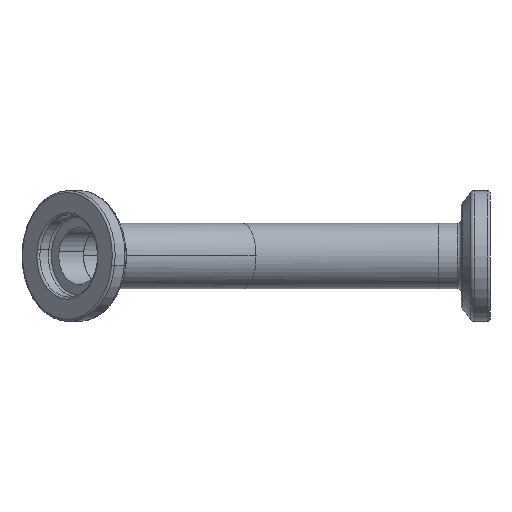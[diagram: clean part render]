
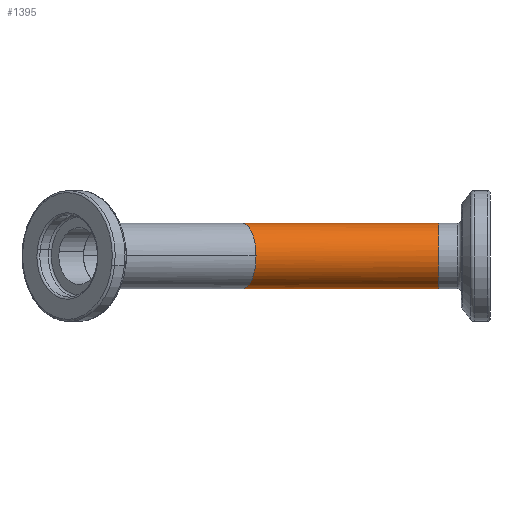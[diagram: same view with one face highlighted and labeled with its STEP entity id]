
A CAD part, left-side view. The second image highlights one B-rep face of the part: STEP entity #1395.
In plain terms, the highlighted cylindrical face has radius 12.7 mm (diameter 25.4 mm), a partial arc.
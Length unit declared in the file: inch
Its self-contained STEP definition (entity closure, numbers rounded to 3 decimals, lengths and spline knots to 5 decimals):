
#32 = VERTEX_POINT ( 'NONE', #281 ) ;
#149 = DIRECTION ( 'NONE',  ( 0., -1., 0. ) ) ;
#152 = ORIENTED_EDGE ( 'NONE', *, *, #329, .F. ) ;
#167 = EDGE_CURVE ( 'NONE', #456, #32, #966, .T. ) ;
#175 = CARTESIAN_POINT ( 'NONE',  ( 0., 3., -0.5 ) ) ;
#181 = VECTOR ( 'NONE', #518, 39.37008 ) ;
#206 = CARTESIAN_POINT ( 'NONE',  ( -0.29289, 2.87868, -0.5 ) ) ;
#218 = VERTEX_POINT ( 'NONE', #945 ) ;
#225 = ORIENTED_EDGE ( 'NONE', *, *, #636, .T. ) ;
#233 = VERTEX_POINT ( 'NONE', #1064 ) ;
#234 = ORIENTED_EDGE ( 'NONE', *, *, #1194, .T. ) ;
#275 = DIRECTION ( 'NONE',  ( 0., -1., 0. ) ) ;
#281 = CARTESIAN_POINT ( 'NONE',  ( -0.5, 2.79289, 0. ) ) ;
#285 = LINE ( 'NONE', #175, #181 ) ;
#329 = EDGE_CURVE ( 'NONE', #456, #218, #848, .T. ) ;
#340 = CARTESIAN_POINT ( 'NONE',  ( -0.5, 2.79289, 0.29289 ) ) ;
#456 = VERTEX_POINT ( 'NONE', #1228 ) ;
#474 = CARTESIAN_POINT ( 'NONE',  ( -0.5, 2.79289, 0. ) ) ;
#489 = CYLINDRICAL_SURFACE ( 'NONE', #1082, 0.5 ) ;
#496 = CARTESIAN_POINT ( 'NONE',  ( 0., 3., 0. ) ) ;
#518 = DIRECTION ( 'NONE',  ( 0., -1., 0. ) ) ;
#588 = DIRECTION ( 'NONE',  ( 0., 1., 0. ) ) ;
#636 = EDGE_CURVE ( 'NONE', #1031, #233, #285, .T. ) ;
#659 = EDGE_LOOP ( 'NONE', ( #152, #1054, #899, #225, #234 ) ) ;
#674 = CARTESIAN_POINT ( 'NONE',  ( 0., 3., -0.5 ) ) ;
#702 = CARTESIAN_POINT ( 'NONE',  ( 0., 0., 0. ) ) ;
#798 = CARTESIAN_POINT ( 'NONE',  ( -0.5, 2.79289, -0.29289 ) ) ;
#847 = EDGE_CURVE ( 'NONE', #32, #1031, #1507, .T. ) ;
#848 = LINE ( 'NONE', #1448, #1217 ) ;
#899 = ORIENTED_EDGE ( 'NONE', *, *, #847, .T. ) ;
#900 = DIRECTION ( 'NONE',  ( 0., 0., 1. ) ) ;
#905 = CARTESIAN_POINT ( 'NONE',  ( -0.5, 2.79289, 0. ) ) ;
#945 = CARTESIAN_POINT ( 'NONE',  ( 0., 0., 0.5 ) ) ;
#966 =( BOUNDED_CURVE ( )  B_SPLINE_CURVE ( 3, ( #1411, #1269, #340, #474 ),
 .UNSPECIFIED., .F., .T. ) 
 B_SPLINE_CURVE_WITH_KNOTS ( ( 4, 4 ),
 ( 4.71239, 6.28319 ),
 .UNSPECIFIED. ) 
 CURVE ( )  GEOMETRIC_REPRESENTATION_ITEM ( )  RATIONAL_B_SPLINE_CURVE ( ( 1., 0.805, 0.805, 1. ) ) 
 REPRESENTATION_ITEM ( '' )  );
#1003 = FACE_OUTER_BOUND ( 'NONE', #659, .T. ) ;
#1031 = VERTEX_POINT ( 'NONE', #1244 ) ;
#1054 = ORIENTED_EDGE ( 'NONE', *, *, #167, .T. ) ;
#1064 = CARTESIAN_POINT ( 'NONE',  ( 0., 0., -0.5 ) ) ;
#1082 = AXIS2_PLACEMENT_3D ( 'NONE', #496, #149, #1213 ) ;
#1194 = EDGE_CURVE ( 'NONE', #233, #218, #1242, .T. ) ;
#1213 = DIRECTION ( 'NONE',  ( 0., 0., -1. ) ) ;
#1217 = VECTOR ( 'NONE', #275, 39.37008 ) ;
#1228 = CARTESIAN_POINT ( 'NONE',  ( 0., 3., 0.5 ) ) ;
#1242 = CIRCLE ( 'NONE', #1306, 0.5 ) ;
#1244 = CARTESIAN_POINT ( 'NONE',  ( 0., 3., -0.5 ) ) ;
#1269 = CARTESIAN_POINT ( 'NONE',  ( -0.29289, 2.87868, 0.5 ) ) ;
#1306 = AXIS2_PLACEMENT_3D ( 'NONE', #702, #588, #900 ) ;
#1395 = ADVANCED_FACE ( 'NONE', ( #1003 ), #489, .T. ) ;
#1411 = CARTESIAN_POINT ( 'NONE',  ( 0., 3., 0.5 ) ) ;
#1448 = CARTESIAN_POINT ( 'NONE',  ( 0., 3., 0.5 ) ) ;
#1507 =( BOUNDED_CURVE ( )  B_SPLINE_CURVE ( 3, ( #905, #798, #206, #674 ),
 .UNSPECIFIED., .F., .T. ) 
 B_SPLINE_CURVE_WITH_KNOTS ( ( 4, 4 ),
 ( 0., 1.5708 ),
 .UNSPECIFIED. ) 
 CURVE ( )  GEOMETRIC_REPRESENTATION_ITEM ( )  RATIONAL_B_SPLINE_CURVE ( ( 1., 0.805, 0.805, 1. ) ) 
 REPRESENTATION_ITEM ( '' )  );
